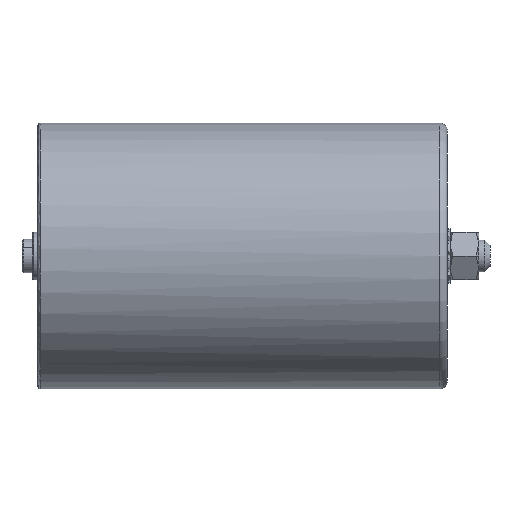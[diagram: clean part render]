
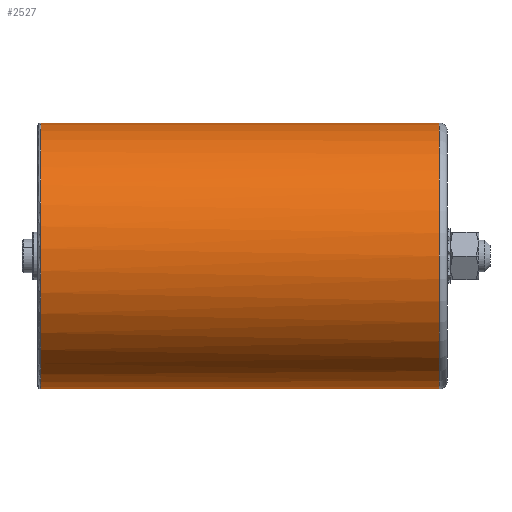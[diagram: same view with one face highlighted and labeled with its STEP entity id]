
A CAD part, left-side view. The second image highlights one B-rep face of the part: STEP entity #2527.
In plain terms, the highlighted cylindrical face has radius 50 mm (diameter 100 mm), a partial arc.
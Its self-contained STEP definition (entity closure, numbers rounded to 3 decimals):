
#77 = DIRECTION ( 'NONE',  ( -0.707, 0., -0.707 ) ) ;
#156 = CARTESIAN_POINT ( 'NONE',  ( 0., 144., 50. ) ) ;
#308 = CARTESIAN_POINT ( 'NONE',  ( 0., 153., 50. ) ) ;
#828 = DIRECTION ( 'NONE',  ( 0., 1., 0. ) ) ;
#905 = CARTESIAN_POINT ( 'NONE',  ( 0., 153., 0. ) ) ;
#985 = ORIENTED_EDGE ( 'NONE', *, *, #9575, .F. ) ;
#1036 = LINE ( 'NONE', #156, #11349 ) ;
#1089 = AXIS2_PLACEMENT_3D ( 'NONE', #9171, #7354, #9111 ) ;
#1107 = AXIS2_PLACEMENT_3D ( 'NONE', #905, #4553, #77 ) ;
#1322 = VERTEX_POINT ( 'NONE', #5090 ) ;
#2453 = VERTEX_POINT ( 'NONE', #11160 ) ;
#2527 = ADVANCED_FACE ( 'NONE', ( #11399 ), #4324, .T. ) ;
#2557 = DIRECTION ( 'NONE',  ( 0., -1., 0. ) ) ;
#3012 = VERTEX_POINT ( 'NONE', #308 ) ;
#3435 = DIRECTION ( 'NONE',  ( 0., 0., -1. ) ) ;
#4098 = CIRCLE ( 'NONE', #1089, 50. ) ;
#4324 = CYLINDRICAL_SURFACE ( 'NONE', #8898, 50. ) ;
#4553 = DIRECTION ( 'NONE',  ( 0., -1., 0. ) ) ;
#4843 = CARTESIAN_POINT ( 'NONE',  ( 0., 3., 50. ) ) ;
#5090 = CARTESIAN_POINT ( 'NONE',  ( -35.355, 153., -35.355 ) ) ;
#6113 = CARTESIAN_POINT ( 'NONE',  ( 0., 3., -50. ) ) ;
#6452 = EDGE_CURVE ( 'NONE', #2453, #9112, #8499, .T. ) ;
#6748 = ORIENTED_EDGE ( 'NONE', *, *, #7503, .T. ) ;
#7198 = DIRECTION ( 'NONE',  ( 0., -1., 0. ) ) ;
#7354 = DIRECTION ( 'NONE',  ( 0., -1., 0. ) ) ;
#7503 = EDGE_CURVE ( 'NONE', #3012, #1322, #4098, .T. ) ;
#7659 = CIRCLE ( 'NONE', #1107, 50. ) ;
#7793 = AXIS2_PLACEMENT_3D ( 'NONE', #10130, #828, #11572 ) ;
#7900 = ORIENTED_EDGE ( 'NONE', *, *, #6452, .T. ) ;
#7903 = EDGE_CURVE ( 'NONE', #1322, #2453, #7659, .T. ) ;
#8076 = ORIENTED_EDGE ( 'NONE', *, *, #7903, .T. ) ;
#8391 = ORIENTED_EDGE ( 'NONE', *, *, #9220, .T. ) ;
#8499 = LINE ( 'NONE', #10437, #10782 ) ;
#8760 = CARTESIAN_POINT ( 'NONE',  ( 0., 144., 0. ) ) ;
#8851 = EDGE_LOOP ( 'NONE', ( #985, #6748, #8076, #7900, #8391 ) ) ;
#8898 = AXIS2_PLACEMENT_3D ( 'NONE', #8760, #2557, #3435 ) ;
#9094 = CIRCLE ( 'NONE', #7793, 50. ) ;
#9111 = DIRECTION ( 'NONE',  ( -0.707, 0., -0.707 ) ) ;
#9112 = VERTEX_POINT ( 'NONE', #6113 ) ;
#9171 = CARTESIAN_POINT ( 'NONE',  ( 0., 153., 0. ) ) ;
#9220 = EDGE_CURVE ( 'NONE', #9112, #10052, #9094, .T. ) ;
#9575 = EDGE_CURVE ( 'NONE', #3012, #10052, #1036, .T. ) ;
#10052 = VERTEX_POINT ( 'NONE', #4843 ) ;
#10130 = CARTESIAN_POINT ( 'NONE',  ( 0., 3., 0. ) ) ;
#10324 = DIRECTION ( 'NONE',  ( 0., -1., 0. ) ) ;
#10437 = CARTESIAN_POINT ( 'NONE',  ( 0., 144., -50. ) ) ;
#10782 = VECTOR ( 'NONE', #10324, 1000. ) ;
#11160 = CARTESIAN_POINT ( 'NONE',  ( 0., 153., -50. ) ) ;
#11349 = VECTOR ( 'NONE', #7198, 1000. ) ;
#11399 = FACE_OUTER_BOUND ( 'NONE', #8851, .T. ) ;
#11572 = DIRECTION ( 'NONE',  ( 0., 0., 1. ) ) ;
